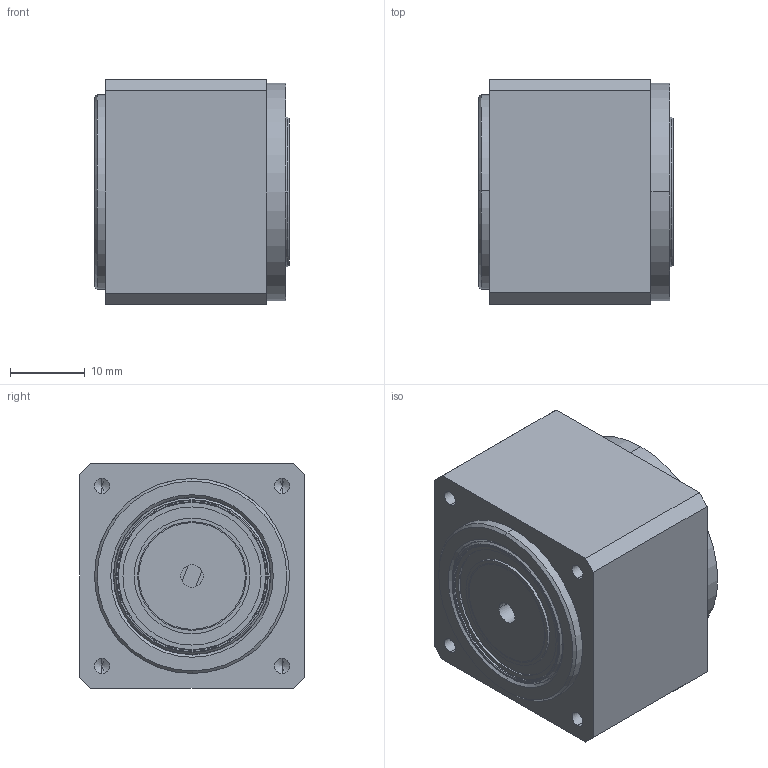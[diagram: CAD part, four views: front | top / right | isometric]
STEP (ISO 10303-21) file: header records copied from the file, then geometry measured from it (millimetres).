
FILE_DESCRIPTION (( 'STEP AP214' ), '1' );
FILE_NAME ('CSF-08-xxx-1U-D.STEP', '2022-05-08T08:15:03', ( 'PC' ), ( 'Microsoft' ), 'SwSTEP 2.0', 'SolidWorks 2016', '' );
FILE_SCHEMA (( 'AUTOMOTIVE_DESIGN' ));
Length unit declared in the file: millimetre
Products named in the file (12): CSF-08-交叉轴承内圈; CSF-08-交叉轴承外圈; CSF-08-1U-01_蕼偞; CSF-08-xxx-1U-D; CSF-08-1U-D-疏楷汜ん_蕼偞; 柔性轴承19.63x14.22x3.3x3.1_預設; CSF-08-1U-D-05_蕼偞; CSF-08-1U-D-06_蕼偞; CSF-08-1U-03_蕼偞; CSF-08-1U-02_蕼偞; 躇猾蚐猾20x26x4_蕼偞; CSF-08蝠脫粣創_蕼偞
Assembly tree (11 placements, depth 3):
  CSF-08-xxx-1U-D
    CSF-08-1U-01_蕼偞
    CSF-08蝠脫粣創_蕼偞
      CSF-08-交叉轴承外圈
      CSF-08-交叉轴承内圈
    躇猾蚐猾20x26x4_蕼偞
    CSF-08-1U-02_蕼偞
    CSF-08-1U-03_蕼偞
    CSF-08-1U-D-06_蕼偞
    CSF-08-1U-D-疏楷汜ん_蕼偞
      CSF-08-1U-D-05_蕼偞
      柔性轴承19.63x14.22x3.3x3.1_預設
Bounding box: 26 x 30 x 30 mm (x, y, z)
Volume: 18183.6 mm3; surface area: 16591.5 mm2
Topology: 9 solids, 9 shells, 281 faces, 642 edges, 384 vertices
Faces by surface type: cylinder 120, cone 82, plane 57, torus 22
Entity records: 9038 total; most frequent: DIRECTION 1540, CARTESIAN_POINT 1531, ORIENTED_EDGE 1244, AXIS2_PLACEMENT_3D 643, EDGE_CURVE 622, VERTEX_POINT 384, CIRCLE 346, EDGE_LOOP 342
